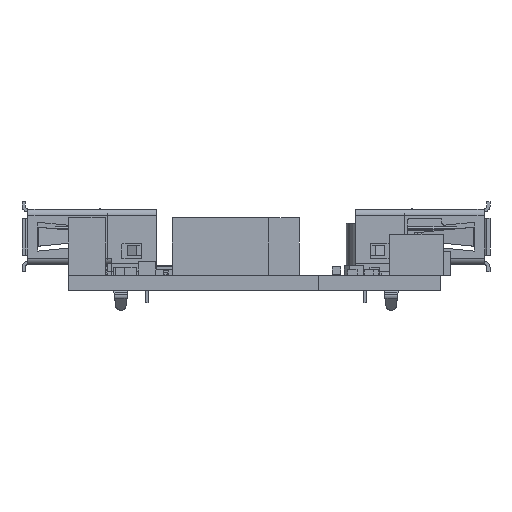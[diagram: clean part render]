
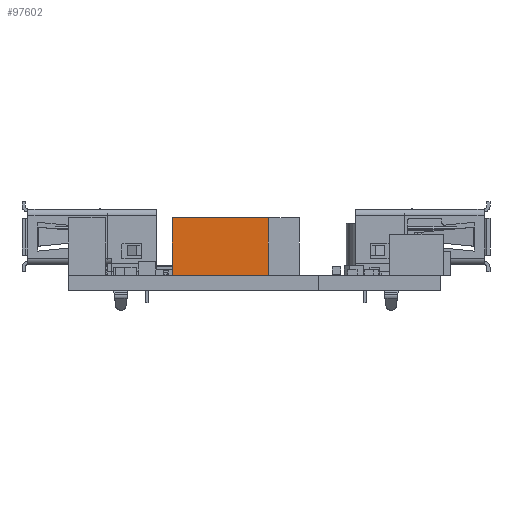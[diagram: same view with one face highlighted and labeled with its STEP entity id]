
A CAD part, front view. The second image highlights one B-rep face of the part: STEP entity #97602.
In plain terms, the highlighted planar face has unit normal (0, -1, 0).
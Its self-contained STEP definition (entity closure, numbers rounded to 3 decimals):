
#97497 = PLANE('',#97498);
#97498 = AXIS2_PLACEMENT_3D('',#97499,#97500,#97501);
#97499 = CARTESIAN_POINT('',(-5.,1.9,0.));
#97500 = DIRECTION('',(1.,0.,0.));
#97501 = DIRECTION('',(0.,-1.,0.));
#97522 = VERTEX_POINT('',#97523);
#97523 = CARTESIAN_POINT('',(-5.,-1.9,6.));
#97537 = PLANE('',#97538);
#97538 = AXIS2_PLACEMENT_3D('',#97539,#97540,#97541);
#97539 = CARTESIAN_POINT('',(-5.,1.9,6.));
#97540 = DIRECTION('',(0.,0.,-1.));
#97541 = DIRECTION('',(-1.,0.,0.));
#97549 = EDGE_CURVE('',#97550,#97522,#97552,.T.);
#97550 = VERTEX_POINT('',#97551);
#97551 = CARTESIAN_POINT('',(-5.,-1.9,0.));
#97552 = SURFACE_CURVE('',#97553,(#97557,#97564),.PCURVE_S1.);
#97553 = LINE('',#97554,#97555);
#97554 = CARTESIAN_POINT('',(-5.,-1.9,0.));
#97555 = VECTOR('',#97556,1.);
#97556 = DIRECTION('',(0.,0.,1.));
#97557 = PCURVE('',#97497,#97558);
#97558 = DEFINITIONAL_REPRESENTATION('',(#97559),#97563);
#97559 = LINE('',#97560,#97561);
#97560 = CARTESIAN_POINT('',(3.8,0.));
#97561 = VECTOR('',#97562,1.);
#97562 = DIRECTION('',(0.,-1.));
#97563 = ( GEOMETRIC_REPRESENTATION_CONTEXT(2) 
PARAMETRIC_REPRESENTATION_CONTEXT() REPRESENTATION_CONTEXT('2D SPACE',''
  ) );
#97564 = PCURVE('',#97565,#97570);
#97565 = PLANE('',#97566);
#97566 = AXIS2_PLACEMENT_3D('',#97567,#97568,#97569);
#97567 = CARTESIAN_POINT('',(-5.,-1.9,0.));
#97568 = DIRECTION('',(0.,1.,0.));
#97569 = DIRECTION('',(1.,0.,0.));
#97570 = DEFINITIONAL_REPRESENTATION('',(#97571),#97575);
#97571 = LINE('',#97572,#97573);
#97572 = CARTESIAN_POINT('',(0.,0.));
#97573 = VECTOR('',#97574,1.);
#97574 = DIRECTION('',(0.,-1.));
#97575 = ( GEOMETRIC_REPRESENTATION_CONTEXT(2) 
PARAMETRIC_REPRESENTATION_CONTEXT() REPRESENTATION_CONTEXT('2D SPACE',''
  ) );
#97591 = PLANE('',#97592);
#97592 = AXIS2_PLACEMENT_3D('',#97593,#97594,#97595);
#97593 = CARTESIAN_POINT('',(-5.,1.9,0.));
#97594 = DIRECTION('',(0.,0.,-1.));
#97595 = DIRECTION('',(-1.,0.,0.));
#97602 = ADVANCED_FACE('',(#97603),#97565,.F.);
#97603 = FACE_BOUND('',#97604,.F.);
#97604 = EDGE_LOOP('',(#97605,#97606,#97629,#97657));
#97605 = ORIENTED_EDGE('',*,*,#97549,.T.);
#97606 = ORIENTED_EDGE('',*,*,#97607,.T.);
#97607 = EDGE_CURVE('',#97522,#97608,#97610,.T.);
#97608 = VERTEX_POINT('',#97609);
#97609 = CARTESIAN_POINT('',(5.,-1.9,6.));
#97610 = SURFACE_CURVE('',#97611,(#97615,#97622),.PCURVE_S1.);
#97611 = LINE('',#97612,#97613);
#97612 = CARTESIAN_POINT('',(-5.,-1.9,6.));
#97613 = VECTOR('',#97614,1.);
#97614 = DIRECTION('',(1.,0.,0.));
#97615 = PCURVE('',#97565,#97616);
#97616 = DEFINITIONAL_REPRESENTATION('',(#97617),#97621);
#97617 = LINE('',#97618,#97619);
#97618 = CARTESIAN_POINT('',(0.,-6.));
#97619 = VECTOR('',#97620,1.);
#97620 = DIRECTION('',(1.,0.));
#97621 = ( GEOMETRIC_REPRESENTATION_CONTEXT(2) 
PARAMETRIC_REPRESENTATION_CONTEXT() REPRESENTATION_CONTEXT('2D SPACE',''
  ) );
#97622 = PCURVE('',#97537,#97623);
#97623 = DEFINITIONAL_REPRESENTATION('',(#97624),#97628);
#97624 = LINE('',#97625,#97626);
#97625 = CARTESIAN_POINT('',(0.,-3.8));
#97626 = VECTOR('',#97627,1.);
#97627 = DIRECTION('',(-1.,0.));
#97628 = ( GEOMETRIC_REPRESENTATION_CONTEXT(2) 
PARAMETRIC_REPRESENTATION_CONTEXT() REPRESENTATION_CONTEXT('2D SPACE',''
  ) );
#97629 = ORIENTED_EDGE('',*,*,#97630,.F.);
#97630 = EDGE_CURVE('',#97631,#97608,#97633,.T.);
#97631 = VERTEX_POINT('',#97632);
#97632 = CARTESIAN_POINT('',(5.,-1.9,0.));
#97633 = SURFACE_CURVE('',#97634,(#97638,#97645),.PCURVE_S1.);
#97634 = LINE('',#97635,#97636);
#97635 = CARTESIAN_POINT('',(5.,-1.9,0.));
#97636 = VECTOR('',#97637,1.);
#97637 = DIRECTION('',(0.,0.,1.));
#97638 = PCURVE('',#97565,#97639);
#97639 = DEFINITIONAL_REPRESENTATION('',(#97640),#97644);
#97640 = LINE('',#97641,#97642);
#97641 = CARTESIAN_POINT('',(10.,0.));
#97642 = VECTOR('',#97643,1.);
#97643 = DIRECTION('',(0.,-1.));
#97644 = ( GEOMETRIC_REPRESENTATION_CONTEXT(2) 
PARAMETRIC_REPRESENTATION_CONTEXT() REPRESENTATION_CONTEXT('2D SPACE',''
  ) );
#97645 = PCURVE('',#97646,#97651);
#97646 = PLANE('',#97647);
#97647 = AXIS2_PLACEMENT_3D('',#97648,#97649,#97650);
#97648 = CARTESIAN_POINT('',(5.,-1.9,0.));
#97649 = DIRECTION('',(-1.,0.,0.));
#97650 = DIRECTION('',(0.,1.,0.));
#97651 = DEFINITIONAL_REPRESENTATION('',(#97652),#97656);
#97652 = LINE('',#97653,#97654);
#97653 = CARTESIAN_POINT('',(0.,0.));
#97654 = VECTOR('',#97655,1.);
#97655 = DIRECTION('',(0.,-1.));
#97656 = ( GEOMETRIC_REPRESENTATION_CONTEXT(2) 
PARAMETRIC_REPRESENTATION_CONTEXT() REPRESENTATION_CONTEXT('2D SPACE',''
  ) );
#97657 = ORIENTED_EDGE('',*,*,#97658,.F.);
#97658 = EDGE_CURVE('',#97550,#97631,#97659,.T.);
#97659 = SURFACE_CURVE('',#97660,(#97664,#97671),.PCURVE_S1.);
#97660 = LINE('',#97661,#97662);
#97661 = CARTESIAN_POINT('',(-5.,-1.9,0.));
#97662 = VECTOR('',#97663,1.);
#97663 = DIRECTION('',(1.,0.,0.));
#97664 = PCURVE('',#97565,#97665);
#97665 = DEFINITIONAL_REPRESENTATION('',(#97666),#97670);
#97666 = LINE('',#97667,#97668);
#97667 = CARTESIAN_POINT('',(0.,0.));
#97668 = VECTOR('',#97669,1.);
#97669 = DIRECTION('',(1.,0.));
#97670 = ( GEOMETRIC_REPRESENTATION_CONTEXT(2) 
PARAMETRIC_REPRESENTATION_CONTEXT() REPRESENTATION_CONTEXT('2D SPACE',''
  ) );
#97671 = PCURVE('',#97591,#97672);
#97672 = DEFINITIONAL_REPRESENTATION('',(#97673),#97677);
#97673 = LINE('',#97674,#97675);
#97674 = CARTESIAN_POINT('',(0.,-3.8));
#97675 = VECTOR('',#97676,1.);
#97676 = DIRECTION('',(-1.,0.));
#97677 = ( GEOMETRIC_REPRESENTATION_CONTEXT(2) 
PARAMETRIC_REPRESENTATION_CONTEXT() REPRESENTATION_CONTEXT('2D SPACE',''
  ) );
